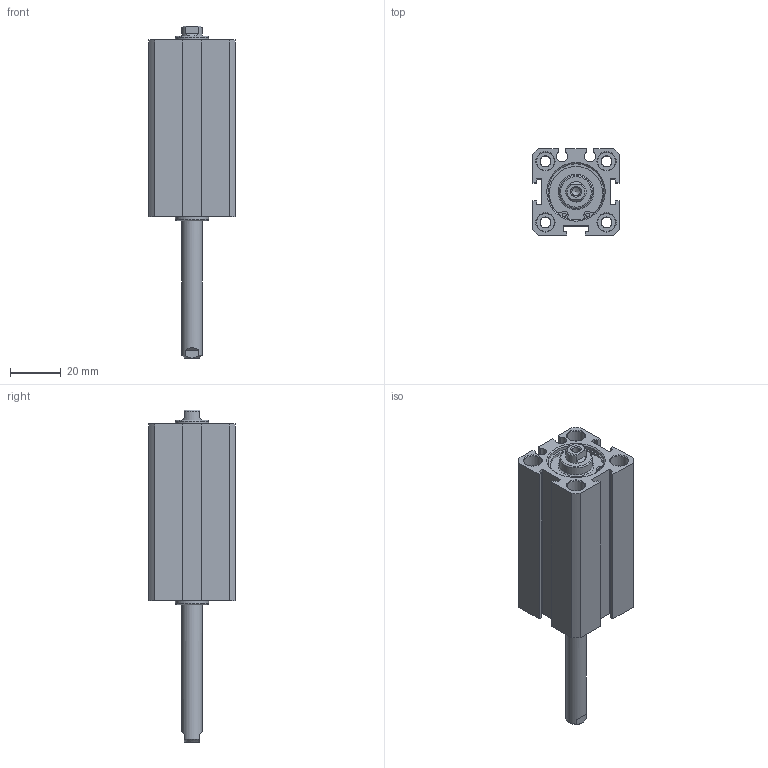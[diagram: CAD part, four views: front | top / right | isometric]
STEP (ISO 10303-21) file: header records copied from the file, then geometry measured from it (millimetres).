
FILE_DESCRIPTION((''),'2;1');
FILE_NAME('I:\3D電子目錄\氣缸\JDD\JDD\JDD20\JDD20x50.stp','2007-02-08T09:05:03',('662F206'),(''),'Autodesk Inventor 10','Autodesk Inventor 10','');
FILE_SCHEMA(('AUTOMOTIVE_DESIGN { 1 0 10303 214 1 1 1 1 }'));
Length unit declared in the file: millimetre
Products named in the file (3): JDD20; R 形環 23
Assembly tree (3 placements, depth 2):
  JDD20
    JDD20
    R 形環 23  x2
Bounding box: 34 x 34 x 130.5 mm (x, y, z)
Volume: 67264.6 mm3; surface area: 22695.9 mm2
Topology: 3 solids, 3 shells, 149 faces, 346 edges, 225 vertices
Faces by surface type: plane 70, cylinder 47, cone 18, bspline 12, torus 2
Full cylindrical faces by diameter (mm): 1.5 x6, 4.3 x4, 7 x8, 8 x1, 13 x2, 22 x4, 23.2 x2
Entity records: 3819 total; most frequent: CARTESIAN_POINT 813, DIRECTION 626, ORIENTED_EDGE 514, EDGE_CURVE 257, AXIS2_PLACEMENT_3D 246, EDGE_LOOP 220, VERTEX_POINT 195, FACE_OUTER_BOUND 137
